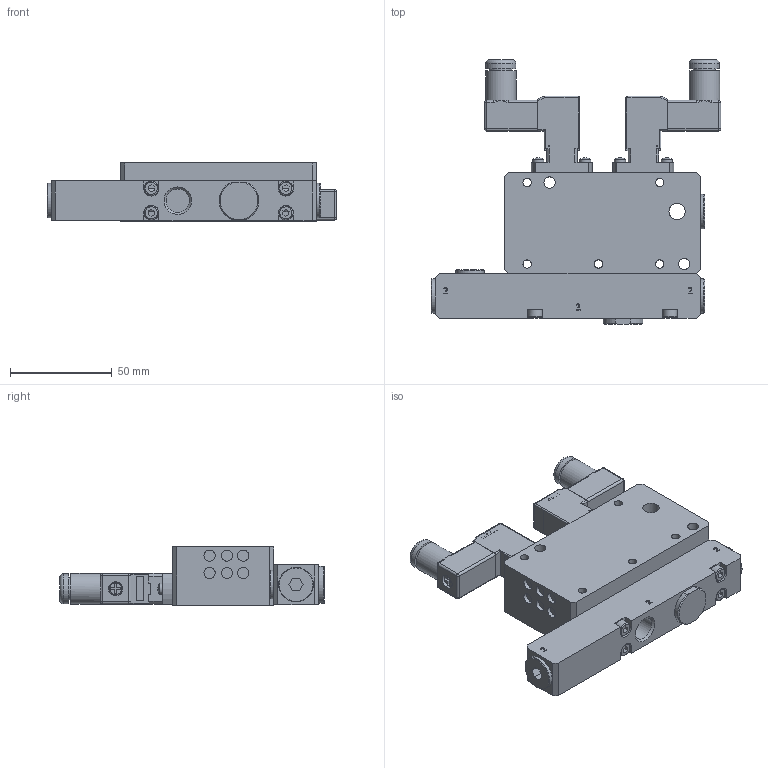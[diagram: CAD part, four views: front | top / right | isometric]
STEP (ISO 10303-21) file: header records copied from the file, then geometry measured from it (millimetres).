
FILE_DESCRIPTION(/* description */ ('GENERATORI DI VUOTO MULTISTADIO MODULARE 8 UGELLI (GVMES-8) SENZA VACUOSTATO'),/* implementation_level */ '2;1');
FILE_NAME(/* name */ 'C:\PNX_VAULTFOLDER\Area Tecnica\Disegni\VARIE-3D\Componenti\1900 (vuoto)\19M14_M_18_ME_01.stp',/* time_stamp */ '2021-05-04T09:55:35+02:00',/* author */ ('maniean1'),/* organization */ (''),/* preprocessor_version */ 'ST-DEVELOPER v18.1',/* originating_system */ 'Autodesk Inventor 2021',/* authorisation */ '');
FILE_SCHEMA (('AUTOMOTIVE_DESIGN { 1 0 10303 214 3 1 1 }'));
Length unit declared in the file: millimetre
Products named in the file (6): 19M14.M.18.ME.01; 19M14_M_15_ME_ED_c; N221.0F; T10714; T10718; 315.11.00
Assembly tree (9 placements, depth 2):
  19M14.M.18.ME.01
    19M14_M_15_ME_ED_c
    N221.0F  x2
    T10714  x3
    T10718
    315.11.00  x2
Bounding box: 141.9 x 129.85 x 28.5 mm (x, y, z)
Volume: 223455.3 mm3; surface area: 50867.2 mm2
Topology: 9 solids, 31 shells, 1085 faces, 2724 edges, 1752 vertices
Faces by surface type: plane 581, cylinder 256, bspline 154, cone 50, torus 26, sphere 18
Full cylindrical faces by diameter (mm): 1 x4, 2.459 x6, 3 x6, 3.2 x4, 3.242 x4, 3.8 x2, 4 x4, 4.1 x10, 4.4 x1, 4.9 x1, 5.5 x12, 6.5 x2, 6.9 x1, 7 x7, 7.6 x2, 8 x2, 8.566 x1, 10 x2, 10.4 x1, 10.8 x2, 11.445 x4, 13.2 x3, 14 x1, 14.8 x2, 15 x2, 17 x3
Entity records: 29234 total; most frequent: CARTESIAN_POINT 11692, ORIENTED_EDGE 3528, DIRECTION 3189, EDGE_CURVE 1764, VERTEX_POINT 1151, LINE 1071, VECTOR 1071, AXIS2_PLACEMENT_3D 1059
